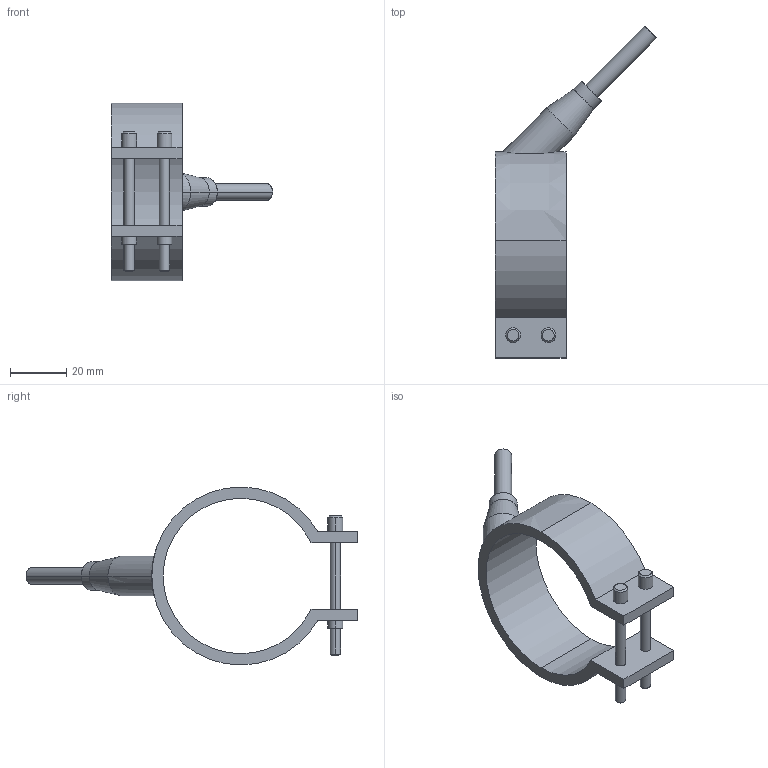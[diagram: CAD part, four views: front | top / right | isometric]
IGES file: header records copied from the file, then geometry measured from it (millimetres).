
Start section: START RECORD GO HERE.
Global section: file name: 29055025.igs; native system: DASSAULT SYSTEMES CATIA V5 R20 - www.3ds.com; preprocessor: CATIA Version 5 Release 20 ; author: Utente; organization: NB04-ASUS; date: 20210329.151319; units: millimetre
Bounding box: 57.05 x 117.55 x 63 mm (x, y, z)
Surface area: 13717.7 mm2 (no closed solid volume)
Topology: 0 solids, 0 shells, 54 faces, 248 edges, 248 vertices
Faces by surface type: revolution 38, plane 16
